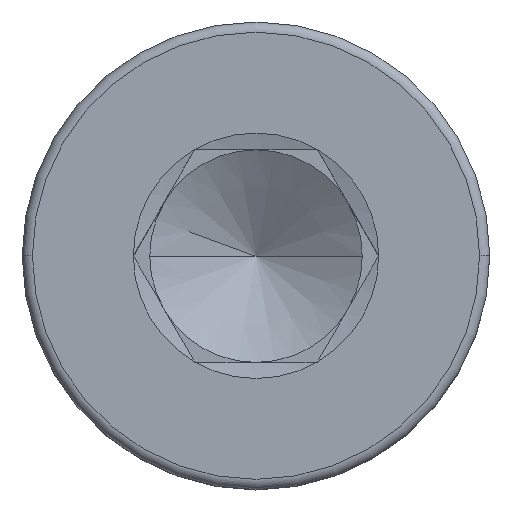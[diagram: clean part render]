
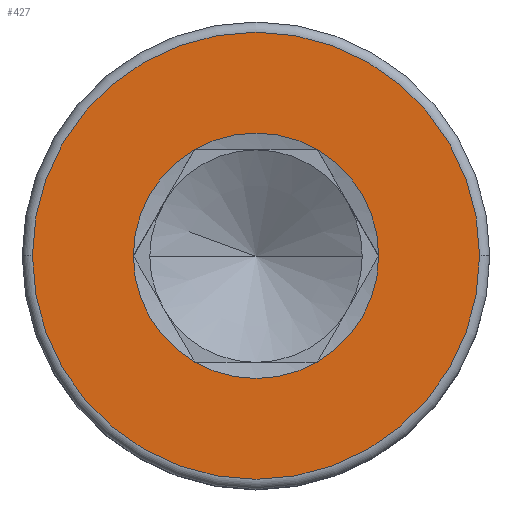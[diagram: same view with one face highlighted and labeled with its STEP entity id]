
A CAD part, top view. The second image highlights one B-rep face of the part: STEP entity #427.
In plain terms, the highlighted planar face has unit normal (0, 0, 1).
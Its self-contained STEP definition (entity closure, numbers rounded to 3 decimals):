
#31 = CIRCLE ( 'NONE', #855, 1.443 ) ;
#61 = AXIS2_PLACEMENT_3D ( 'NONE', #450, #1789, #481 ) ;
#75 = CARTESIAN_POINT ( 'NONE',  ( 0., 0., 3. ) ) ;
#128 = VERTEX_POINT ( 'NONE', #1655 ) ;
#130 = DIRECTION ( 'NONE',  ( 0., 0., 1. ) ) ;
#136 = DIRECTION ( 'NONE',  ( 0., 0., 1. ) ) ;
#141 = CARTESIAN_POINT ( 'NONE',  ( -1.443, 0., 3. ) ) ;
#148 = VERTEX_POINT ( 'NONE', #1555 ) ;
#150 = DIRECTION ( 'NONE',  ( 0., 0., 1. ) ) ;
#191 = VERTEX_POINT ( 'NONE', #1361 ) ;
#214 = CIRCLE ( 'NONE', #583, 2.63 ) ;
#277 = CIRCLE ( 'NONE', #1500, 2.63 ) ;
#360 = DIRECTION ( 'NONE',  ( 1., 0., 0. ) ) ;
#382 = CARTESIAN_POINT ( 'NONE',  ( 0., 0., 3. ) ) ;
#399 = ORIENTED_EDGE ( 'NONE', *, *, #1189, .T. ) ;
#402 = FACE_BOUND ( 'NONE', #1533, .T. ) ;
#412 = EDGE_CURVE ( 'NONE', #499, #148, #456, .T. ) ;
#427 = ADVANCED_FACE ( 'NONE', ( #1140, #402 ), #577, .T. ) ;
#434 = DIRECTION ( 'NONE',  ( 0., 0., 1. ) ) ;
#435 = AXIS2_PLACEMENT_3D ( 'NONE', #917, #897, #1329 ) ;
#436 = DIRECTION ( 'NONE',  ( 1., 0., 0. ) ) ;
#437 = ORIENTED_EDGE ( 'NONE', *, *, #935, .F. ) ;
#450 = CARTESIAN_POINT ( 'NONE',  ( 0., 0., 3. ) ) ;
#456 = CIRCLE ( 'NONE', #1495, 1.443 ) ;
#457 = CARTESIAN_POINT ( 'NONE',  ( 2.63, 0., 3. ) ) ;
#481 = DIRECTION ( 'NONE',  ( 1., 0., 0. ) ) ;
#491 = CARTESIAN_POINT ( 'NONE',  ( -0.722, -1.25, 3. ) ) ;
#492 = CIRCLE ( 'NONE', #696, 1.443 ) ;
#499 = VERTEX_POINT ( 'NONE', #1054 ) ;
#522 = DIRECTION ( 'NONE',  ( 0., 0., 1. ) ) ;
#528 = EDGE_CURVE ( 'NONE', #615, #1788, #762, .T. ) ;
#577 = PLANE ( 'NONE',  #1586 ) ;
#583 = AXIS2_PLACEMENT_3D ( 'NONE', #75, #1356, #360 ) ;
#585 = AXIS2_PLACEMENT_3D ( 'NONE', #1159, #434, #1018 ) ;
#589 = CIRCLE ( 'NONE', #435, 1.443 ) ;
#615 = VERTEX_POINT ( 'NONE', #491 ) ;
#674 = ORIENTED_EDGE ( 'NONE', *, *, #1178, .T. ) ;
#696 = AXIS2_PLACEMENT_3D ( 'NONE', #382, #130, #1297 ) ;
#762 = CIRCLE ( 'NONE', #61, 1.443 ) ;
#802 = CARTESIAN_POINT ( 'NONE',  ( 0., 0., 3. ) ) ;
#855 = AXIS2_PLACEMENT_3D ( 'NONE', #1887, #150, #1639 ) ;
#862 = EDGE_CURVE ( 'NONE', #148, #128, #492, .T. ) ;
#873 = DIRECTION ( 'NONE',  ( 0., 0., 1. ) ) ;
#897 = DIRECTION ( 'NONE',  ( 0., 0., 1. ) ) ;
#917 = CARTESIAN_POINT ( 'NONE',  ( 0., 0., 3. ) ) ;
#935 = EDGE_CURVE ( 'NONE', #128, #1017, #31, .T. ) ;
#958 = VERTEX_POINT ( 'NONE', #457 ) ;
#967 = EDGE_LOOP ( 'NONE', ( #674, #399 ) ) ;
#1017 = VERTEX_POINT ( 'NONE', #141 ) ;
#1018 = DIRECTION ( 'NONE',  ( 1., 0., 0. ) ) ;
#1054 = CARTESIAN_POINT ( 'NONE',  ( 1.443, 0., 3. ) ) ;
#1080 = ORIENTED_EDGE ( 'NONE', *, *, #1498, .F. ) ;
#1084 = ORIENTED_EDGE ( 'NONE', *, *, #412, .F. ) ;
#1140 = FACE_OUTER_BOUND ( 'NONE', #967, .T. ) ;
#1147 = ORIENTED_EDGE ( 'NONE', *, *, #528, .F. ) ;
#1159 = CARTESIAN_POINT ( 'NONE',  ( 0., 0., 3. ) ) ;
#1178 = EDGE_CURVE ( 'NONE', #958, #191, #214, .T. ) ;
#1189 = EDGE_CURVE ( 'NONE', #191, #958, #277, .T. ) ;
#1234 = ORIENTED_EDGE ( 'NONE', *, *, #1684, .F. ) ;
#1270 = ORIENTED_EDGE ( 'NONE', *, *, #862, .F. ) ;
#1297 = DIRECTION ( 'NONE',  ( 1., 0., 0. ) ) ;
#1315 = CIRCLE ( 'NONE', #585, 1.443 ) ;
#1329 = DIRECTION ( 'NONE',  ( 1., 0., 0. ) ) ;
#1356 = DIRECTION ( 'NONE',  ( 0., 0., 1. ) ) ;
#1361 = CARTESIAN_POINT ( 'NONE',  ( -2.63, 0., 3. ) ) ;
#1385 = DIRECTION ( 'NONE',  ( 1., 0., 0. ) ) ;
#1392 = CARTESIAN_POINT ( 'NONE',  ( 0.722, -1.25, 3. ) ) ;
#1495 = AXIS2_PLACEMENT_3D ( 'NONE', #1864, #136, #1719 ) ;
#1498 = EDGE_CURVE ( 'NONE', #1017, #615, #1315, .T. ) ;
#1500 = AXIS2_PLACEMENT_3D ( 'NONE', #802, #522, #1385 ) ;
#1533 = EDGE_LOOP ( 'NONE', ( #1084, #1234, #1147, #1080, #437, #1270 ) ) ;
#1555 = CARTESIAN_POINT ( 'NONE',  ( 0.722, 1.25, 3. ) ) ;
#1586 = AXIS2_PLACEMENT_3D ( 'NONE', #1745, #873, #436 ) ;
#1639 = DIRECTION ( 'NONE',  ( 1., 0., 0. ) ) ;
#1655 = CARTESIAN_POINT ( 'NONE',  ( -0.722, 1.25, 3. ) ) ;
#1684 = EDGE_CURVE ( 'NONE', #1788, #499, #589, .T. ) ;
#1719 = DIRECTION ( 'NONE',  ( 1., 0., 0. ) ) ;
#1745 = CARTESIAN_POINT ( 'NONE',  ( 0., 0., 3. ) ) ;
#1788 = VERTEX_POINT ( 'NONE', #1392 ) ;
#1789 = DIRECTION ( 'NONE',  ( 0., 0., 1. ) ) ;
#1864 = CARTESIAN_POINT ( 'NONE',  ( 0., 0., 3. ) ) ;
#1887 = CARTESIAN_POINT ( 'NONE',  ( 0., 0., 3. ) ) ;
